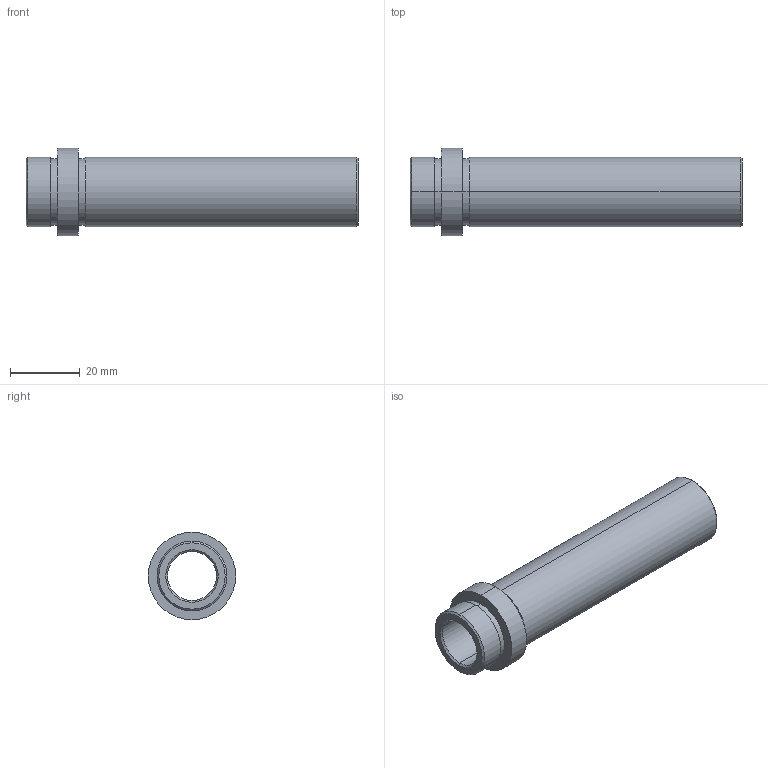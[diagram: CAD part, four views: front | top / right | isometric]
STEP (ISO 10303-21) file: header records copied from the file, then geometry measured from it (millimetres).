
FILE_DESCRIPTION( ( 'STEP AP203' ), '1' );
FILE_NAME( 'D:/Delta 3 D/D21/D21 - 14x86.step', '2002-12-31T22:25:29', ( ' ' ), ( ' ' ), 'XStep 1.0', ' ', ' ' );
FILE_SCHEMA( ( 'CONFIG_CONTROL_DESIGN' ) );
Length unit declared in the file: metre
Products named in the file (1): 1
Bounding box: 95 x 25 x 25 mm (x, y, z)
Volume: 16132.1 mm3; surface area: 10962.8 mm2
Topology: 1 solids, 1 shells, 26 faces, 52 edges, 32 vertices
Faces by surface type: revolution 20, bspline 6
Entity records: 773 total; most frequent: CARTESIAN_POINT 169, DIRECTION 106, ORIENTED_EDGE 104, EDGE_CURVE 52, AXIS2_PLACEMENT_3D 33, EDGE_LOOP 32, VERTEX_POINT 32, CIRCLE 32
